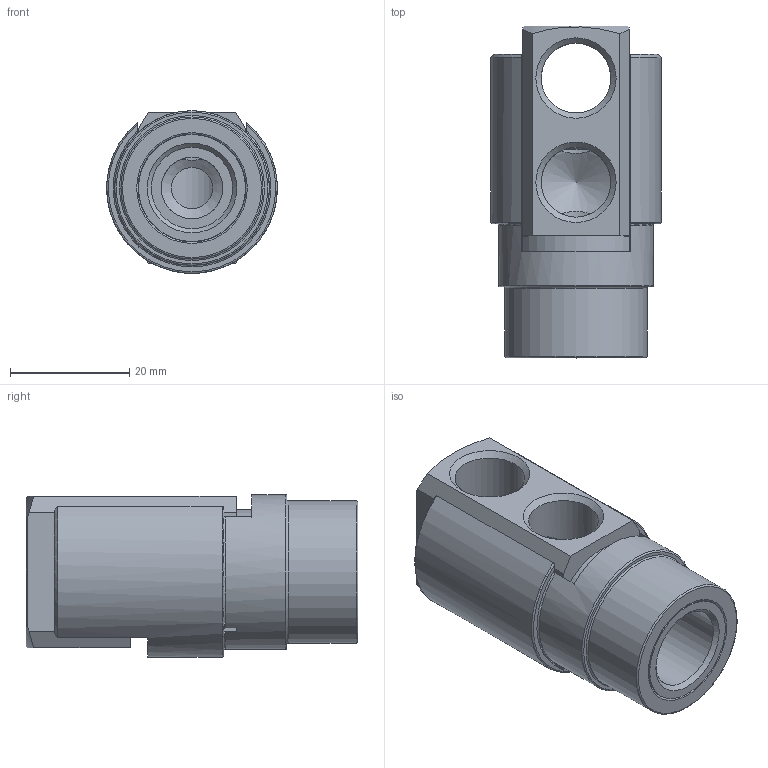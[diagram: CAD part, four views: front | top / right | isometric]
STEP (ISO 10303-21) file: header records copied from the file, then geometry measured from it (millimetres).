
FILE_DESCRIPTION(/* description */ (''),/* implementation_level */ '2;1');
FILE_NAME(/* name */ 'C:/Users/drich/Desktop/SC146H-4 v2.step',/* time_stamp */ '2020-01-04T15:15:25-06:00',/* author */ (''),/* organization */ (''),/* preprocessor_version */ 'ST-DEVELOPER v18',/* originating_system */ 'Autodesk Translation Framework v8.12.0.6',/* authorisation */ '');
FILE_SCHEMA (('AUTOMOTIVE_DESIGN { 1 0 10303 214 3 1 1 }'));
Length unit declared in the file: inch
Products named in the file (3): SC146H-4; SC146H HEAD; SC146H Sleeve
Assembly tree (2 placements, depth 2):
  SC146H-4
    SC146H HEAD
    SC146H Sleeve
Bounding box: 28.56 x 55.55 x 27.24 mm (x, y, z)
Volume: 20259.1 mm3; surface area: 13954.6 mm2
Topology: 2 solids, 2 shells, 62 faces, 181 edges, 123 vertices
Faces by surface type: plane 31, cylinder 15, cone 10, torus 6
Full cylindrical faces by diameter (mm): 6.909 x1, 10.312 x1, 11.668 x2, 13.589 x1, 17.907 x1, 18.034 x1, 21.057 x1, 23.8 x1, 25.908 x1
Entity records: 2339 total; most frequent: CARTESIAN_POINT 590, ORIENTED_EDGE 360, DIRECTION 357, EDGE_CURVE 180, AXIS2_PLACEMENT_3D 142, VERTEX_POINT 123, CIRCLE 75, LINE 73
